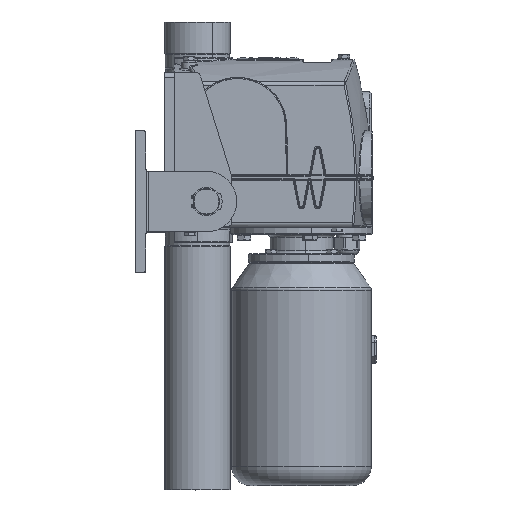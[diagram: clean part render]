
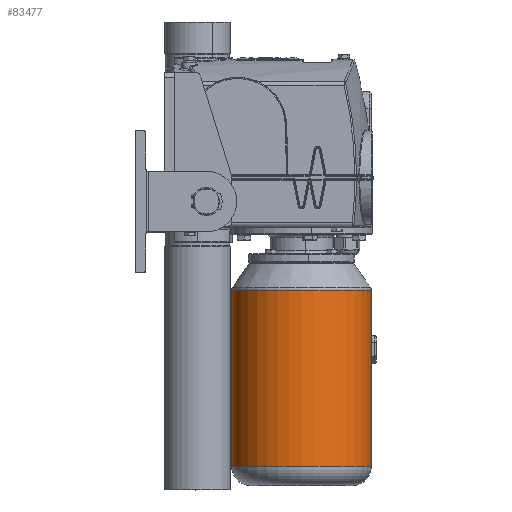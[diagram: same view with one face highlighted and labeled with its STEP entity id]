
A CAD part, top view. The second image highlights one B-rep face of the part: STEP entity #83477.
In plain terms, the highlighted cylindrical face has radius 69.05 mm (diameter 138.1 mm), a partial arc.
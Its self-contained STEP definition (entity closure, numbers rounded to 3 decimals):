
#1780 = VERTEX_POINT ( 'NONE', #29142 ) ;
#2601 = AXIS2_PLACEMENT_3D ( 'NONE', #78559, #19574, #24911 ) ;
#5820 = LINE ( 'NONE', #10690, #70048 ) ;
#10602 = LINE ( 'NONE', #29995, #30317 ) ;
#10660 = ORIENTED_EDGE ( 'NONE', *, *, #47661, .F. ) ;
#10690 = CARTESIAN_POINT ( 'NONE',  ( 0., 0., 69.05 ) ) ;
#16377 = DIRECTION ( 'NONE',  ( 0., -1., 0. ) ) ;
#18016 = CIRCLE ( 'NONE', #50318, 69.05 ) ;
#19472 = VERTEX_POINT ( 'NONE', #67788 ) ;
#19574 = DIRECTION ( 'NONE',  ( 0., -1., 0. ) ) ;
#20806 = AXIS2_PLACEMENT_3D ( 'NONE', #53309, #33523, #86781 ) ;
#24911 = DIRECTION ( 'NONE',  ( 0., 0., -1. ) ) ;
#29142 = CARTESIAN_POINT ( 'NONE',  ( 0., -201., -69.05 ) ) ;
#29995 = CARTESIAN_POINT ( 'NONE',  ( 0., 0., -69.05 ) ) ;
#30317 = VECTOR ( 'NONE', #56809, 1000. ) ;
#32234 = FACE_OUTER_BOUND ( 'NONE', #34700, .T. ) ;
#33523 = DIRECTION ( 'NONE',  ( 0., -1., 0. ) ) ;
#34490 = VERTEX_POINT ( 'NONE', #71413 ) ;
#34700 = EDGE_LOOP ( 'NONE', ( #10660, #51347, #67181, #55380 ) ) ;
#37622 = EDGE_CURVE ( 'NONE', #46410, #1780, #10602, .T. ) ;
#46410 = VERTEX_POINT ( 'NONE', #69220 ) ;
#47371 = EDGE_CURVE ( 'NONE', #34490, #1780, #84113, .T. ) ;
#47661 = EDGE_CURVE ( 'NONE', #19472, #34490, #5820, .T. ) ;
#50318 = AXIS2_PLACEMENT_3D ( 'NONE', #70465, #16377, #82410 ) ;
#51347 = ORIENTED_EDGE ( 'NONE', *, *, #83895, .T. ) ;
#52025 = DIRECTION ( 'NONE',  ( 0., -1., 0. ) ) ;
#53309 = CARTESIAN_POINT ( 'NONE',  ( 0., 0., 0. ) ) ;
#55380 = ORIENTED_EDGE ( 'NONE', *, *, #47371, .F. ) ;
#56809 = DIRECTION ( 'NONE',  ( 0., -1., 0. ) ) ;
#67181 = ORIENTED_EDGE ( 'NONE', *, *, #37622, .T. ) ;
#67788 = CARTESIAN_POINT ( 'NONE',  ( 0., -26.569, 69.05 ) ) ;
#69220 = CARTESIAN_POINT ( 'NONE',  ( 0., -26.569, -69.05 ) ) ;
#70048 = VECTOR ( 'NONE', #52025, 1000. ) ;
#70465 = CARTESIAN_POINT ( 'NONE',  ( 0., -26.569, 0. ) ) ;
#71413 = CARTESIAN_POINT ( 'NONE',  ( 0., -201., 69.05 ) ) ;
#73557 = CYLINDRICAL_SURFACE ( 'NONE', #20806, 69.05 ) ;
#78559 = CARTESIAN_POINT ( 'NONE',  ( 0., -201., 0. ) ) ;
#82410 = DIRECTION ( 'NONE',  ( 0., 0., 1. ) ) ;
#83477 = ADVANCED_FACE ( 'NONE', ( #32234 ), #73557, .T. ) ;
#83895 = EDGE_CURVE ( 'NONE', #19472, #46410, #18016, .T. ) ;
#84113 = CIRCLE ( 'NONE', #2601, 69.05 ) ;
#86781 = DIRECTION ( 'NONE',  ( 0., 0., -1. ) ) ;
